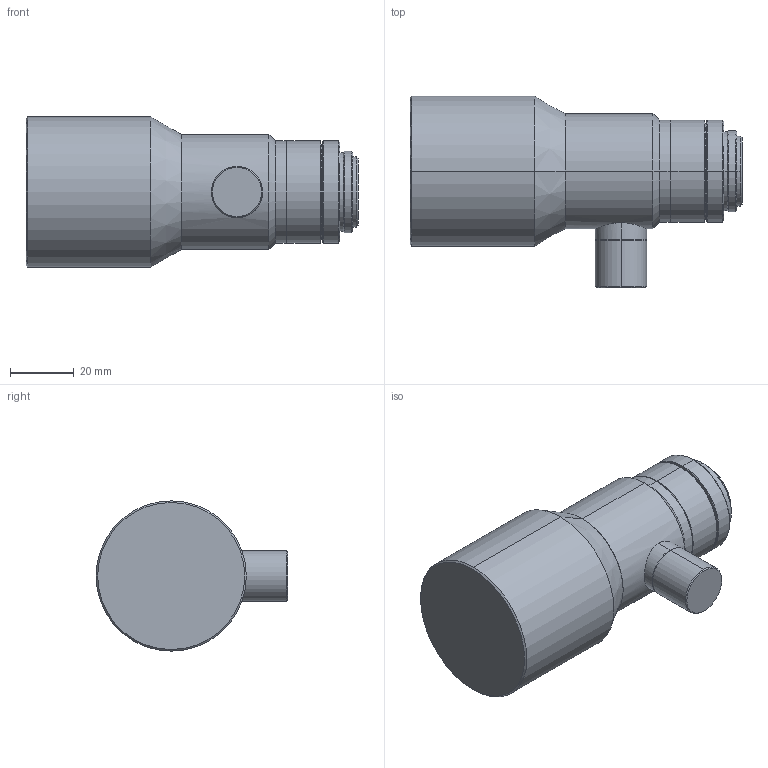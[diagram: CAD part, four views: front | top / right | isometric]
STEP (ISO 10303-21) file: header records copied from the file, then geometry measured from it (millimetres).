
FILE_DESCRIPTION (( 'STEP AP203' ), '1' );
FILE_NAME ('VS-TCM025-150CO.STEP', '2017-10-19T00:09:53', ( 'miura_vst' ), ( '' ), 'SwSTEP 2.0', 'SolidWorks 2017', '' );
FILE_SCHEMA (( 'CONFIG_CONTROL_DESIGN' ));
Length unit declared in the file: millimetre
Products named in the file (1): VS-TCM025-150CO
Bounding box: 103.85 x 60 x 47 mm (x, y, z)
Volume: 132968.2 mm3; surface area: 16710.6 mm2
Topology: 1 solids, 1 shells, 62 faces, 122 edges, 68 vertices
Faces by surface type: cone 32, cylinder 22, plane 8
Entity records: 1741 total; most frequent: CARTESIAN_POINT 349, DIRECTION 312, ORIENTED_EDGE 244, AXIS2_PLACEMENT_3D 129, EDGE_CURVE 122, EDGE_LOOP 68, VERTEX_POINT 68, CIRCLE 66
